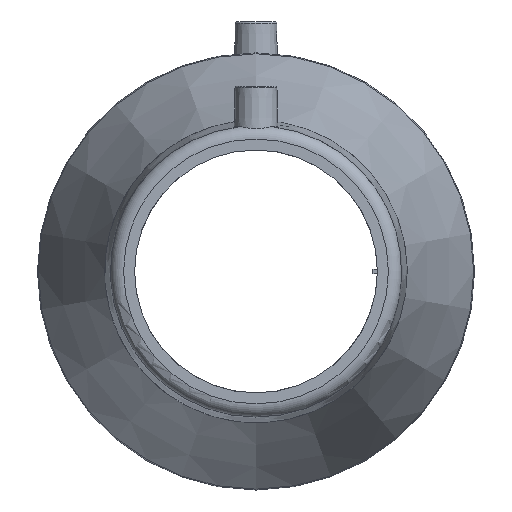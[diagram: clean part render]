
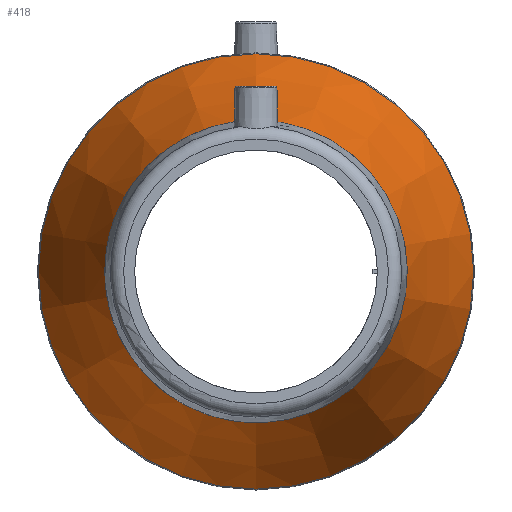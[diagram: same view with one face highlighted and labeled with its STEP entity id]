
A CAD part, left-side view. The second image highlights one B-rep face of the part: STEP entity #418.
In plain terms, the highlighted conical face has half-angle 20.869 degrees and reference radius 99 mm.
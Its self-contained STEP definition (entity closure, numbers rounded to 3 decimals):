
#77=CIRCLE('',#475,68.5);
#78=CIRCLE('',#476,98.606);
#113=ORIENTED_EDGE('',*,*,#201,.F.);
#114=ORIENTED_EDGE('',*,*,#202,.T.);
#201=EDGE_CURVE('',#245,#245,#77,.T.);
#202=EDGE_CURVE('',#246,#246,#78,.T.);
#245=VERTEX_POINT('',#730);
#246=VERTEX_POINT('',#732);
#287=EDGE_LOOP('',(#113));
#288=EDGE_LOOP('',(#114));
#352=FACE_BOUND('',#287,.T.);
#353=FACE_BOUND('',#288,.T.);
#409=CONICAL_SURFACE('',#474,99.,0.364);
#418=ADVANCED_FACE('',(#352,#353),#409,.T.);
#474=AXIS2_PLACEMENT_3D('',#728,#554,#555);
#475=AXIS2_PLACEMENT_3D('',#729,#556,#557);
#476=AXIS2_PLACEMENT_3D('',#731,#558,#559);
#554=DIRECTION('',(1.,0.,0.));
#555=DIRECTION('',(0.,0.,-1.));
#556=DIRECTION('',(-1.,0.,0.));
#557=DIRECTION('',(0.,0.,1.));
#558=DIRECTION('',(-1.,0.,0.));
#559=DIRECTION('',(0.,0.,1.));
#728=CARTESIAN_POINT('',(40.,0.,0.));
#729=CARTESIAN_POINT('',(-40.,0.,0.));
#730=CARTESIAN_POINT('',(-40.,0.,68.5));
#731=CARTESIAN_POINT('',(38.968,0.,0.));
#732=CARTESIAN_POINT('',(38.968,0.,98.606));
